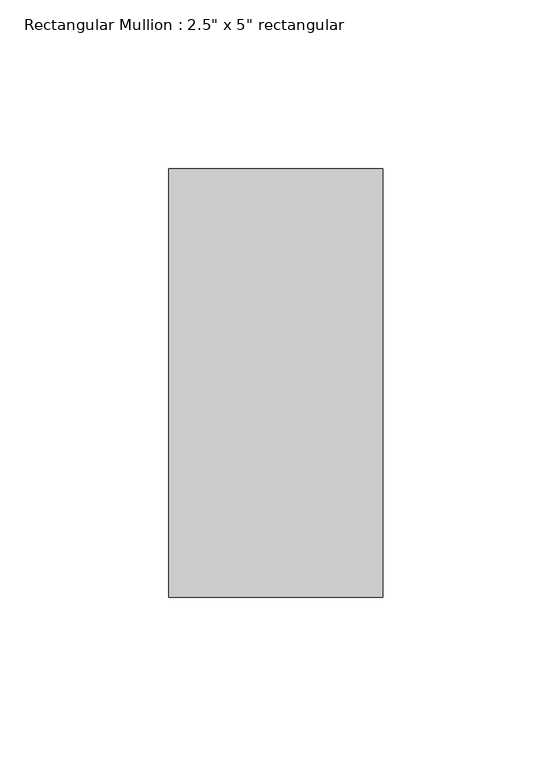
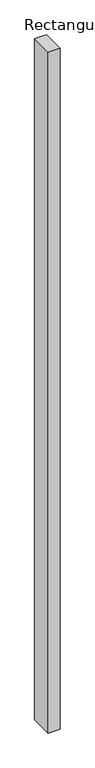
"""IFC4 building model written with IfcOpenShell, lengths in millimetres: member geometry."""

from ifc_helpers import new_model, si_unit, frame, origin, place, context, project, spatial, polyline, outline, extrude, source, transform, mapped, element, save


def member_1e4e3dac(model_context):
    return source(origin(), model_context, "Body", "SweptSolid", [
        extrude(outline(polyline([(31.75, 63.5), (31.75, -63.5), (-31.75, -63.5), (-31.75, 63.5), (31.75, 63.5)])), frame((0.0, 0.0, -3886.1686444), z_axis=(0.0, 0.0, 1.0), x_axis=(1.0, 0.0, 0.0)), (0.0, 0.0, 1.0), 3886.1686444),
    ])


if __name__ == "__main__":
    model = new_model("IFC4")
    model_context = context("Model", 3, world=origin())
    ifc_project = project(units=[si_unit("LENGTHUNIT", "METRE", prefix="MILLI")], contexts=[model_context])
    site = spatial("IfcSite", under=ifc_project)
    building = spatial("IfcBuilding", under=site)
    placement = place(None, origin())
    member_shape = member_1e4e3dac(model_context)
    element("IfcMember", 1, ObjectType="Rectangular Mullion : 2.5\" x 5\" rectangular", at=placement, inside=building, context=model_context, shape_type="MappedRepresentation", body=[
        mapped(member_shape, transform((0.0, 0.0, 0.0), x_axis=(1.0, 0.0, 0.0), y_axis=(0.0, 1.0, 0.0), z_axis=(0.0, 0.0, 1.0))),
    ])
    save(model, "model.ifc")
